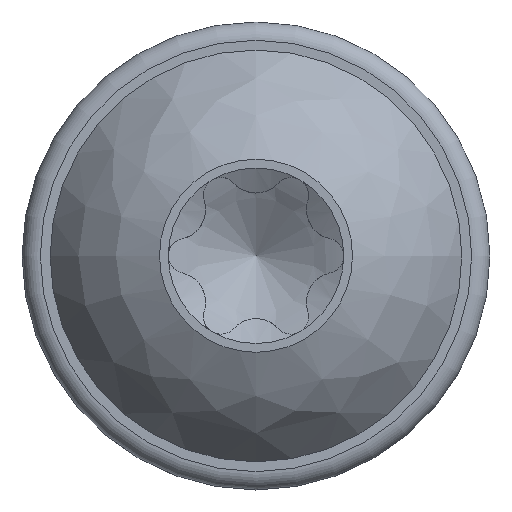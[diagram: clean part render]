
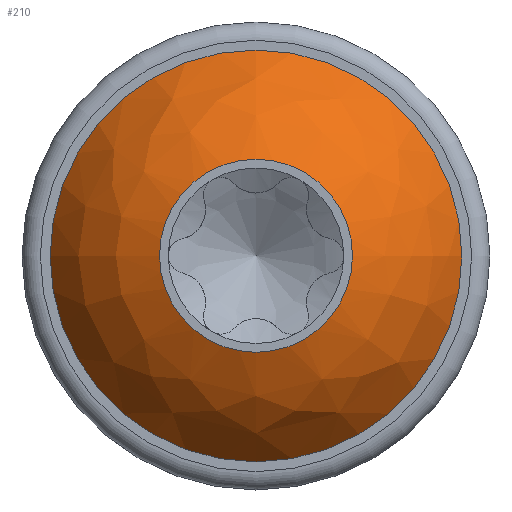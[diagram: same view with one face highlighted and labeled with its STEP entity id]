
A CAD part, top view. The second image highlights one B-rep face of the part: STEP entity #210.
In plain terms, the highlighted free-form (B-spline) face has degree [3, 3] with [4, 7] control points.
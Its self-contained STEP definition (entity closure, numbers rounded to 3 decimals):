
#71=(
BOUNDED_SURFACE()
B_SPLINE_SURFACE(3,3,((#2378,#2379,#2380,#2381,#2382,#2383,#2384),(#2385,
#2386,#2387,#2388,#2389,#2390,#2391),(#2392,#2393,#2394,#2395,#2396,#2397,
#2398),(#2399,#2400,#2401,#2402,#2403,#2404,#2405)),.UNSPECIFIED.,.F.,.T.,
 .F.)
B_SPLINE_SURFACE_WITH_KNOTS((4,4),(1,3,3,3,1),(0.,1.),(-0.5,0.,0.5,1.,1.5),
 .UNSPECIFIED.)
GEOMETRIC_REPRESENTATION_ITEM()
RATIONAL_B_SPLINE_SURFACE(((1.,0.333,0.333,1.,0.333,
0.333,1.),(0.957,0.319,0.319,
0.957,0.319,0.319,0.957),
(0.957,0.319,0.319,0.957,
0.319,0.319,0.957),(1.,0.333,
0.333,1.,0.333,0.333,1.)))
REPRESENTATION_ITEM('')
SURFACE()
);
#178=FACE_BOUND('',#362,.T.);
#179=FACE_BOUND('',#363,.T.);
#210=ADVANCED_FACE('',(#178,#179),#71,.T.);
#362=EDGE_LOOP('',(#499));
#363=EDGE_LOOP('',(#500));
#441=CIRCLE('',#1154,1.408);
#442=CIRCLE('',#1156,0.66);
#499=ORIENTED_EDGE('',*,*,#920,.F.);
#500=ORIENTED_EDGE('',*,*,#919,.T.);
#811=VERTEX_POINT('',#2374);
#812=VERTEX_POINT('',#2377);
#919=EDGE_CURVE('',#811,#811,#441,.T.);
#920=EDGE_CURVE('',#812,#812,#442,.T.);
#1154=AXIS2_PLACEMENT_3D('',#2373,#1230,#1231);
#1156=AXIS2_PLACEMENT_3D('',#2376,#1234,#1235);
#1230=DIRECTION('',(0.,0.,1.));
#1231=DIRECTION('',(1.,0.,0.));
#1234=DIRECTION('',(0.,0.,1.));
#1235=DIRECTION('',(1.,0.,0.));
#2373=CARTESIAN_POINT('',(0.,0.,0.5));
#2374=CARTESIAN_POINT('',(1.408,0.,0.5));
#2376=CARTESIAN_POINT('',(0.,0.,1.15));
#2377=CARTESIAN_POINT('',(0.66,0.,1.15));
#2378=CARTESIAN_POINT('',(0.66,0.,1.15));
#2379=CARTESIAN_POINT('',(0.66,1.32,1.15));
#2380=CARTESIAN_POINT('',(-0.66,1.32,1.15));
#2381=CARTESIAN_POINT('',(-0.66,0.,1.15));
#2382=CARTESIAN_POINT('',(-0.66,-1.32,1.15));
#2383=CARTESIAN_POINT('',(0.66,-1.32,1.15));
#2384=CARTESIAN_POINT('',(0.66,0.,1.15));
#2385=CARTESIAN_POINT('',(0.984,0.,1.03));
#2386=CARTESIAN_POINT('',(0.984,1.968,1.03));
#2387=CARTESIAN_POINT('',(-0.984,1.968,1.03));
#2388=CARTESIAN_POINT('',(-0.984,0.,1.03));
#2389=CARTESIAN_POINT('',(-0.984,-1.968,1.03));
#2390=CARTESIAN_POINT('',(0.984,-1.968,1.03));
#2391=CARTESIAN_POINT('',(0.984,0.,1.03));
#2392=CARTESIAN_POINT('',(1.244,0.,0.804));
#2393=CARTESIAN_POINT('',(1.244,2.489,0.804));
#2394=CARTESIAN_POINT('',(-1.244,2.489,0.804));
#2395=CARTESIAN_POINT('',(-1.244,0.,0.804));
#2396=CARTESIAN_POINT('',(-1.244,-2.489,0.804));
#2397=CARTESIAN_POINT('',(1.244,-2.489,0.804));
#2398=CARTESIAN_POINT('',(1.244,0.,0.804));
#2399=CARTESIAN_POINT('',(1.408,0.,0.5));
#2400=CARTESIAN_POINT('',(1.408,2.816,0.5));
#2401=CARTESIAN_POINT('',(-1.408,2.816,0.5));
#2402=CARTESIAN_POINT('',(-1.408,0.,0.5));
#2403=CARTESIAN_POINT('',(-1.408,-2.816,0.5));
#2404=CARTESIAN_POINT('',(1.408,-2.816,0.5));
#2405=CARTESIAN_POINT('',(1.408,0.,0.5));
